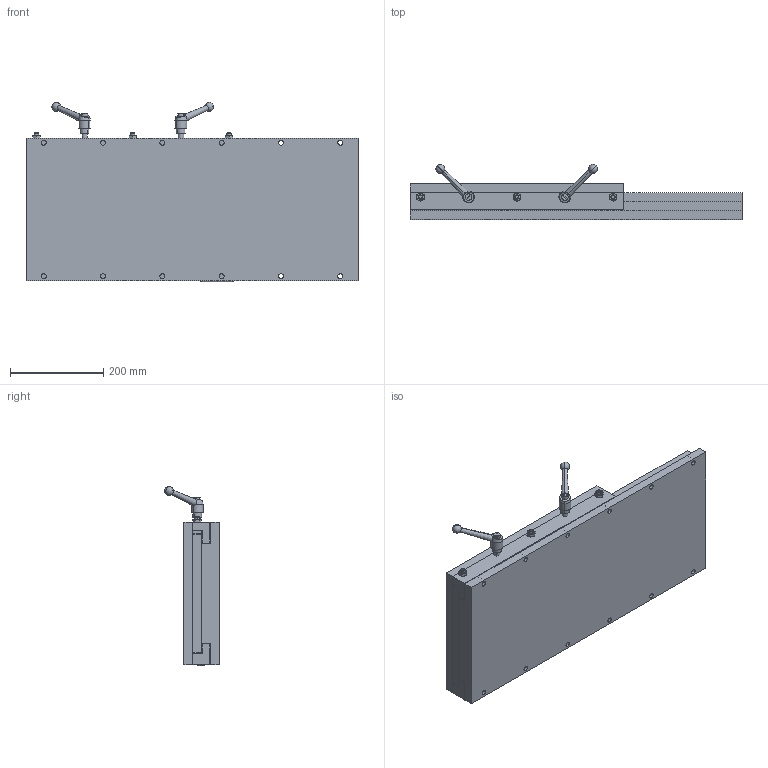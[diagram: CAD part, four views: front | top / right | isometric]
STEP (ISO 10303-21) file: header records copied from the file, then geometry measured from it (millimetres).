
FILE_DESCRIPTION (( 'STEP AP214' ), '1' );
FILE_NAME ('SW12-SL18-BL28-LH.STEP', '2011-06-16T19:35:30', ( '' ), ( '' ), 'SwSTEP 2.0', 'SolidWorks 2011', '' );
FILE_SCHEMA (( 'AUTOMOTIVE_DESIGN' ));
Length unit declared in the file: inch
Products named in the file (13): KHB_102; _MSHXNUT_MSHXNUT 0.375-24-D-N; _SSCUPSOC_SSCUPSKT 0.375-24x1.25-HX-N; Tag; Gen2 Bar_12x18 BAR; Gen2 Adj Gib_12x18 ADJ GIB; Gen2 Gib_12x18 GIB; Gen2 Top plate_12x18 TPLATE; Gen2 BASE_12x28 BASE; Gen2 Hardplate_12x28 HPLATE; Gen2 Baseplate_12x28 BASE; SW12-SL18-BL28-LH; Gen2 SADDLE_12x18 SADDLE with LOCK HANDLES
Assembly tree (17 placements, depth 3):
  SW12-SL18-BL28-LH
    Gen2 BASE_12x28 BASE
      Gen2 Hardplate_12x28 HPLATE
      Gen2 Baseplate_12x28 BASE
    Gen2 SADDLE_12x18 SADDLE with LOCK HANDLES
      KHB_102  x2
      _SSCUPSOC_SSCUPSKT 0.375-24x1.25-HX-N  x3
      _MSHXNUT_MSHXNUT 0.375-24-D-N  x3
      Tag
      Gen2 Adj Gib_12x18 ADJ GIB
      Gen2 Top plate_12x18 TPLATE
      Gen2 Gib_12x18 GIB
      Gen2 Bar_12x18 BAR
Bounding box: 711.2 x 117.53 x 383.71 mm (x, y, z)
Volume: 14292907 mm3; surface area: 1742206.2 mm2
Topology: 20 solids, 20 shells, 379 faces, 860 edges, 533 vertices
Faces by surface type: plane 163, cylinder 118, cone 90, sphere 4, bspline 4
Entity records: 9274 total; most frequent: CARTESIAN_POINT 2271, DIRECTION 1319, ORIENTED_EDGE 1174, EDGE_CURVE 587, AXIS2_PLACEMENT_3D 498, VERTEX_POINT 378, EDGE_LOOP 329, VECTOR 323
